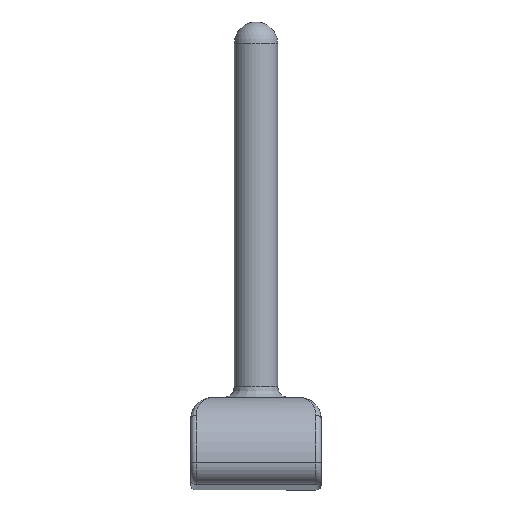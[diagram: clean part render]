
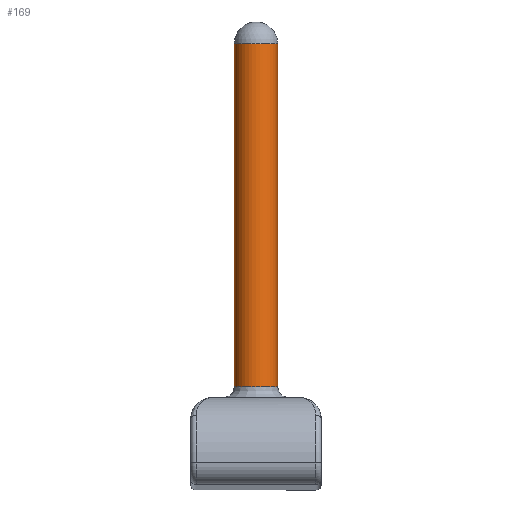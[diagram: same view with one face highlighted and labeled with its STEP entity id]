
A CAD part, front view. The second image highlights one B-rep face of the part: STEP entity #169.
In plain terms, the highlighted cylindrical face has radius 2 mm (diameter 4 mm), a partial arc.
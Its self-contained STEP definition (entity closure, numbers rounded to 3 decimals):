
#69=CARTESIAN_POINT('',(4.,-23.992,35.));
#70=VERTEX_POINT('',#69);
#86=CARTESIAN_POINT('',(8.,-23.992,35.));
#87=VERTEX_POINT('',#86);
#110=CARTESIAN_POINT('',(6.,-23.992,35.));
#111=DIRECTION('',(0.,0.,1.0));
#112=DIRECTION('',(0.707,-0.707,0.));
#113=AXIS2_PLACEMENT_3D('',#110,#111,#112);
#114=CIRCLE('',#113,2.);
#115=EDGE_CURVE('',#70,#87,#114,.T.);
#138=CARTESIAN_POINT('',(6.,-23.992,8.642));
#139=DIRECTION('',(0.,0.,-1.0));
#140=DIRECTION('',(0.707,-0.707,0.));
#141=AXIS2_PLACEMENT_3D('',#138,#139,#140);
#142=CYLINDRICAL_SURFACE('',#141,2.0);
#143=ORIENTED_EDGE('',*,*,#115,.F.);
#144=CARTESIAN_POINT('',(4.,-23.992,3.498));
#145=VERTEX_POINT('',#144);
#146=CARTESIAN_POINT('',(4.,-23.992,3.498));
#147=DIRECTION('',(0.,0.,1.0));
#148=VECTOR('',#147,31.502);
#149=LINE('',#146,#148);
#150=EDGE_CURVE('',#145,#70,#149,.T.);
#151=ORIENTED_EDGE('',*,*,#150,.F.);
#152=CARTESIAN_POINT('',(8.,-23.992,3.498));
#153=VERTEX_POINT('',#152);
#154=CARTESIAN_POINT('',(6.,-23.992,3.498));
#155=DIRECTION('',(0.,0.,-1.0));
#156=DIRECTION('',(0.,-1.0,0.));
#157=AXIS2_PLACEMENT_3D('',#154,#155,#156);
#158=CIRCLE('',#157,2.0);
#159=EDGE_CURVE('',#153,#145,#158,.T.);
#160=ORIENTED_EDGE('',*,*,#159,.F.);
#161=CARTESIAN_POINT('',(8.,-23.992,3.498));
#162=DIRECTION('',(0.,0.,1.0));
#163=VECTOR('',#162,31.502);
#164=LINE('',#161,#163);
#165=EDGE_CURVE('',#153,#87,#164,.T.);
#166=ORIENTED_EDGE('',*,*,#165,.T.);
#167=EDGE_LOOP('',(#143,#151,#160,#166));
#168=FACE_OUTER_BOUND('',#167,.T.);
#169=ADVANCED_FACE('',(#168),#142,.T.);
